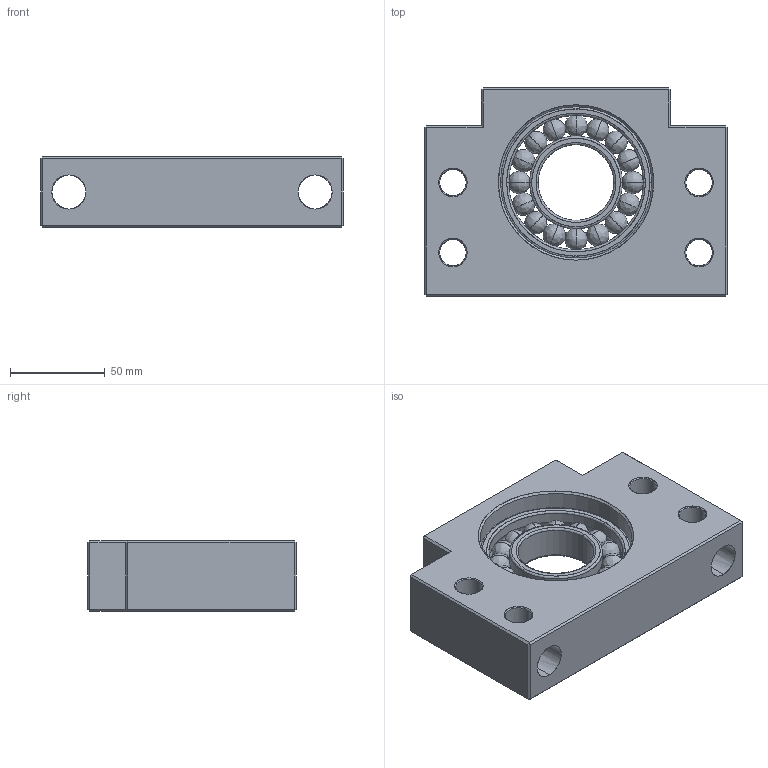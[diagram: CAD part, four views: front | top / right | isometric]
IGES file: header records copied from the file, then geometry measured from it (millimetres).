
Start section: SolidWorks IGES file using analytic representation for surfaces
Global section: file name: Z:\Accessories\_GC_!!!\SYK\Support unit\BF\BF40.IGS; native system: SolidWorks 2015; preprocessor: SolidWorks 2015; author: User; date: 170504.150636; units: millimetre
Bounding box: 160 x 110 x 37 mm (x, y, z)
Surface area: 85716 mm2 (no closed solid volume)
Topology: 0 solids, 0 shells, 166 faces, 2388 edges, 2328 vertices
Faces by surface type: bspline 104, revolution 62
